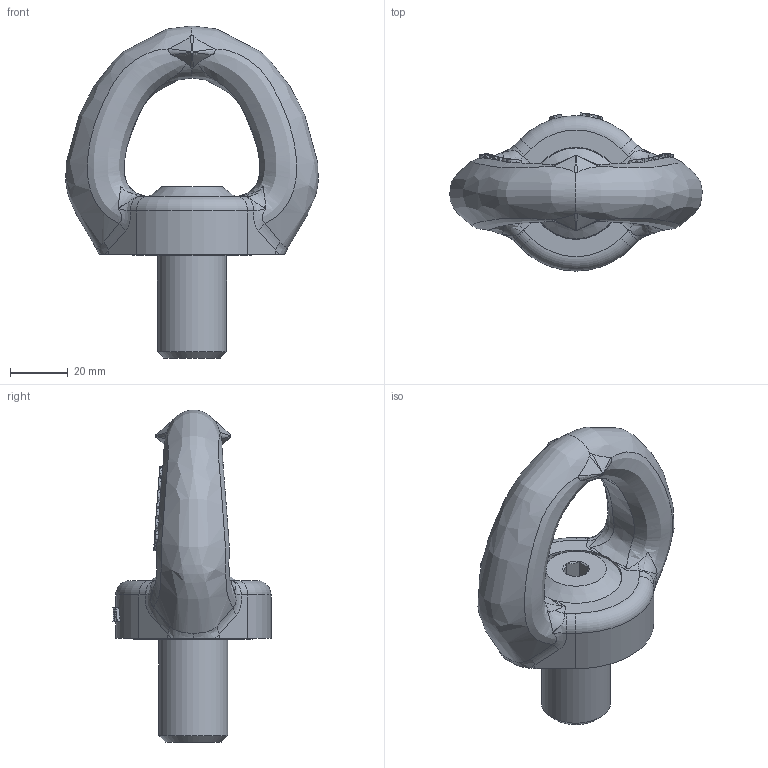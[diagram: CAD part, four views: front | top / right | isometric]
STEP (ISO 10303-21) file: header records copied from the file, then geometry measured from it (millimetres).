
FILE_DESCRIPTION(/* description */ (''),/* implementation_level */ '2;1');
FILE_NAME(/* name */ 'W:\CODIPRO\DOCUMENTS\Plans A NE PAS DIFFUSER !!!\Inventor\Standard Inventor\Produit Fini Inventor\SS_SEB\SS SEB M24.stp',/* time_stamp */ '2017-10-06T08:19:35+02:00',/* author */ ('rklenes'),/* organization */ (''),/* preprocessor_version */ 'ST-DEVELOPER v16.5',/* originating_system */ 'Autodesk Inventor 2017',/* authorisation */ '');
FILE_SCHEMA (('AUTOMOTIVE_DESIGN { 1 0 10303 214 3 1 1 }'));
Length unit declared in the file: millimetre
Products named in the file (4): SS SEB M24; SEM_2; SS_SEE_M24A; SEA_M24_forging_pressé
Assembly tree (3 placements, depth 2):
  SS SEB M24
    SEM_2
    SS_SEE_M24A
    SEA_M24_forging_pressé
Bounding box: 87.76 x 54.96 x 115.4 mm (x, y, z)
Volume: 117632.9 mm3; surface area: 28677.9 mm2
Topology: 3 solids, 3 shells, 414 faces, 1078 edges, 694 vertices
Faces by surface type: bspline 210, plane 142, cylinder 31, cone 23, torus 8
Full cylindrical faces by diameter (mm): 3.15 x1, 24 x3, 24.2 x1, 26 x3, 32 x2, 42 x2
Entity records: 25499 total; most frequent: CARTESIAN_POINT 16604, ORIENTED_EDGE 2064, DIRECTION 1307, EDGE_CURVE 1032, VERTEX_POINT 687, AXIS2_PLACEMENT_3D 493, EDGE_LOOP 483, B_SPLINE_CURVE_WITH_KNOTS 423
